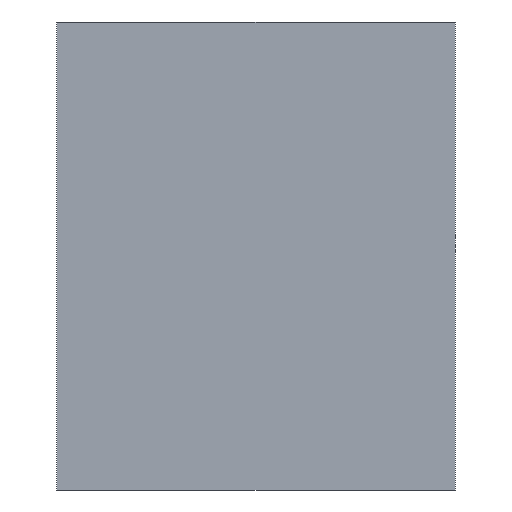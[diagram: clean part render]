
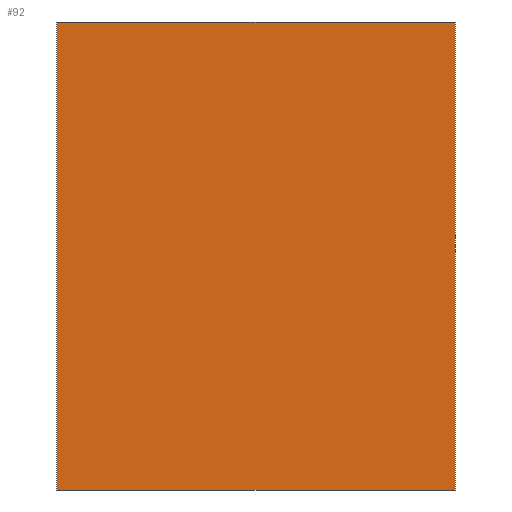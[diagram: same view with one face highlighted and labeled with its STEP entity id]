
A CAD part, top view. The second image highlights one B-rep face of the part: STEP entity #92.
In plain terms, the highlighted planar face has unit normal (0, 0, 1).
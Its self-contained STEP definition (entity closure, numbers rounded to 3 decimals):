
#53=CARTESIAN_POINT('Axis2P3D Location',(0.,0.,0.)) ;
#58=CARTESIAN_POINT('Line Origine',(57.5,0.,0.)) ;
#62=CARTESIAN_POINT('Vertex',(0.,0.,0.)) ;
#64=CARTESIAN_POINT('Vertex',(115.,0.,0.)) ;
#67=CARTESIAN_POINT('Line Origine',(115.,67.5,0.)) ;
#71=CARTESIAN_POINT('Vertex',(115.,135.,0.)) ;
#74=CARTESIAN_POINT('Line Origine',(57.5,135.,0.)) ;
#78=CARTESIAN_POINT('Vertex',(0.,135.,0.)) ;
#81=CARTESIAN_POINT('Line Origine',(0.,67.5,0.)) ;
#54=DIRECTION('Axis2P3D Direction',(0.,0.,1.)) ;
#55=DIRECTION('Axis2P3D XDirection',(1.,0.,0.)) ;
#59=DIRECTION('Vector Direction',(1.,0.,0.)) ;
#68=DIRECTION('Vector Direction',(0.,1.,0.)) ;
#75=DIRECTION('Vector Direction',(-1.,0.,0.)) ;
#82=DIRECTION('Vector Direction',(0.,-1.,0.)) ;
#56=AXIS2_PLACEMENT_3D('Plane Axis2P3D',#53,#54,#55) ;
#87=ORIENTED_EDGE('',*,*,#66,.T.) ;
#88=ORIENTED_EDGE('',*,*,#73,.T.) ;
#89=ORIENTED_EDGE('',*,*,#80,.T.) ;
#90=ORIENTED_EDGE('',*,*,#85,.T.) ;
#60=VECTOR('Line Direction',#59,1.) ;
#69=VECTOR('Line Direction',#68,1.) ;
#76=VECTOR('Line Direction',#75,1.) ;
#83=VECTOR('Line Direction',#82,1.) ;
#92=ADVANCED_FACE('Fill.1',(#91),#57,.T.) ;
#66=EDGE_CURVE('',#63,#65,#61,.T.) ;
#73=EDGE_CURVE('',#65,#72,#70,.T.) ;
#80=EDGE_CURVE('',#72,#79,#77,.T.) ;
#85=EDGE_CURVE('',#79,#63,#84,.T.) ;
#86=EDGE_LOOP('',(#87,#88,#89,#90)) ;
#91=FACE_OUTER_BOUND('',#86,.T.) ;
#61=LINE('Line',#58,#60) ;
#70=LINE('Line',#67,#69) ;
#77=LINE('Line',#74,#76) ;
#84=LINE('Line',#81,#83) ;
#57=PLANE('',#56) ;
#63=VERTEX_POINT('',#62) ;
#65=VERTEX_POINT('',#64) ;
#72=VERTEX_POINT('',#71) ;
#79=VERTEX_POINT('',#78) ;
